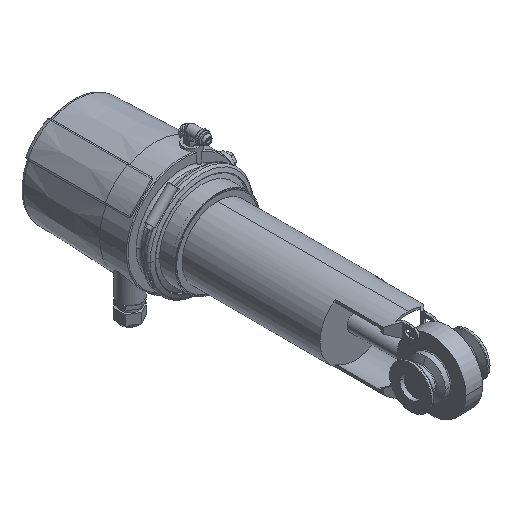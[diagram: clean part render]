
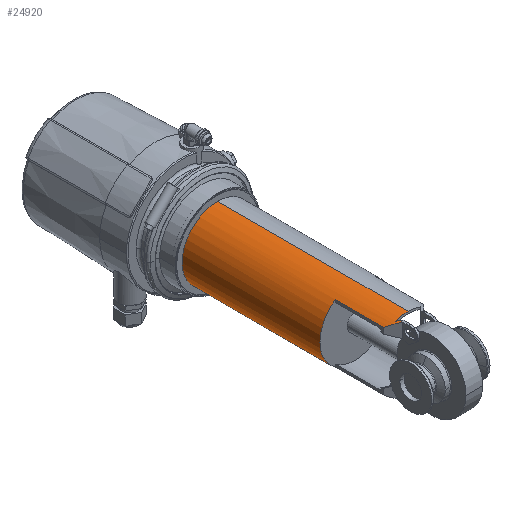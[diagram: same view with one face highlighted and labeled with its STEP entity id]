
A CAD part, isometric view. The second image highlights one B-rep face of the part: STEP entity #24920.
In plain terms, the highlighted cylindrical face has radius 42.5 mm (diameter 85 mm), a partial arc.
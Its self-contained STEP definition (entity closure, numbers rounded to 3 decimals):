
#5790=CARTESIAN_POINT('',(-28.306,-212.914,
-210.096));
#5800=DIRECTION('',(0.,0.,1.));
#5810=DIRECTION('',(-1.,0.,0.));
#5820=AXIS2_PLACEMENT_3D('',#5790,#5800,#5810);
#5830=CIRCLE('',#5820,42.5);
#5840=CARTESIAN_POINT('',(-70.806,-212.914,
-210.096));
#5850=VERTEX_POINT('',#5840);
#5860=CARTESIAN_POINT('',(14.194,-212.914,
-210.096));
#5870=VERTEX_POINT('',#5860);
#5900=EDGE_CURVE('',#5870,#5850,#5830,.T.);
#7850=CARTESIAN_POINT('',(-63.381,-188.914,
-44.596));
#7860=VERTEX_POINT('',#7850);
#7890=CARTESIAN_POINT('',(-28.306,-212.914,
-44.596));
#7900=DIRECTION('',(0.,0.,1.));
#7910=DIRECTION('',(1.,0.,0.));
#7920=AXIS2_PLACEMENT_3D('',#7890,#7900,#7910);
#7930=CIRCLE('',#7920,42.5);
#7940=CARTESIAN_POINT('',(6.769,-188.914,
-44.596));
#7950=VERTEX_POINT('',#7940);
#7960=EDGE_CURVE('',#7950,#7860,#7930,.T.);
#8390=CARTESIAN_POINT('',(12.314,-200.414,
24.897));
#8400=VERTEX_POINT('',#8390);
#8430=CARTESIAN_POINT('',(12.314,-200.414,
-241.458));
#8440=DIRECTION('',(0.,0.,1.));
#8450=VECTOR('',#8440,1.);
#8460=LINE('',#8430,#8450);
#10820=CARTESIAN_POINT('',(12.314,-200.414,
21.362));
#10830=VERTEX_POINT('',#10820);
#10860=CARTESIAN_POINT('',(-28.306,-212.914,
33.862));
#10870=DIRECTION('',(0.,-0.707,-0.707));
#10880=DIRECTION('',(0.,0.707,-0.707));
#10890=AXIS2_PLACEMENT_3D('',#10860,#10870,#10880);
#10900=ELLIPSE('',#10890,60.104,42.5);
#10910=CARTESIAN_POINT('',(11.437,-197.856,
18.804));
#10920=VERTEX_POINT('',#10910);
#10930=EDGE_CURVE('',#10920,#10830,#10900,.T.);
#11400=CARTESIAN_POINT('',(6.769,-188.914,
13.397));
#11410=VERTEX_POINT('',#11400);
#11690=CARTESIAN_POINT('',(6.769,-188.914,
-241.458));
#11700=DIRECTION('',(0.,0.,1.));
#11710=VECTOR('',#11700,1.);
#11720=LINE('',#11690,#11710);
#11730=EDGE_CURVE('',#7950,#11410,#11720,.T.);
#17670=CARTESIAN_POINT('',(-28.306,-212.914,
18.804));
#17680=DIRECTION('',(0.,0.,1.));
#17690=DIRECTION('',(1.,0.,0.));
#17700=AXIS2_PLACEMENT_3D('',#17670,#17680,#17690);
#17710=CIRCLE('',#17700,42.5);
#17720=CARTESIAN_POINT('',(14.194,-212.914,
18.804));
#17730=VERTEX_POINT('',#17720);
#17740=EDGE_CURVE('',#17730,#10920,#17710,.T.);
#18910=EDGE_CURVE('',#10830,#8400,#8460,.T.);
#19030=CARTESIAN_POINT('',(-28.306,-212.914,
37.397));
#19040=DIRECTION('',(0.,0.707,0.707));
#19050=DIRECTION('',(0.,-0.707,0.707));
#19060=AXIS2_PLACEMENT_3D('',#19030,#19040,#19050);
#19070=ELLIPSE('',#19060,60.104,42.5);
#19080=EDGE_CURVE('',#8400,#11410,#19070,.T.);
#23600=CARTESIAN_POINT('',(-63.381,-188.914,
-241.458));
#23610=DIRECTION('',(0.,0.,1.));
#23620=VECTOR('',#23610,1.);
#23630=LINE('',#23600,#23620);
#23640=CARTESIAN_POINT('',(-63.381,-188.914,
13.397));
#23650=VERTEX_POINT('',#23640);
#23660=EDGE_CURVE('',#7860,#23650,#23630,.T.);
#24040=CARTESIAN_POINT('',(-28.306,-212.914,
-44.596));
#24050=DIRECTION('',(0.,0.,1.));
#24060=DIRECTION('',(-1.,0.,0.));
#24070=AXIS2_PLACEMENT_3D('',#24040,#24050,#24060);
#24080=CYLINDRICAL_SURFACE('',#24070,42.5);
#24090=CARTESIAN_POINT('',(14.194,-212.914,
-44.596));
#24100=DIRECTION('',(0.,0.,1.));
#24110=VECTOR('',#24100,1.);
#24120=LINE('',#24090,#24110);
#24130=EDGE_CURVE('',#5870,#17730,#24120,.T.);
#24140=ORIENTED_EDGE('',*,*,#24130,.F.);
#24150=ORIENTED_EDGE('',*,*,#17740,.F.);
#24160=ORIENTED_EDGE('',*,*,#10930,.F.);
#24170=ORIENTED_EDGE('',*,*,#18910,.F.);
#24180=ORIENTED_EDGE('',*,*,#19080,.F.);
#24190=ORIENTED_EDGE('',*,*,#11730,.T.);
#24200=ORIENTED_EDGE('',*,*,#7960,.F.);
#24210=ORIENTED_EDGE('',*,*,#23660,.F.);
#24220=CARTESIAN_POINT('',(-28.306,-212.914,
37.397));
#24230=DIRECTION('',(0.,-0.707,-0.707));
#24240=DIRECTION('',(0.,-0.707,0.707));
#24250=AXIS2_PLACEMENT_3D('',#24220,#24230,#24240);
#24260=ELLIPSE('',#24250,60.104,42.5);
#24270=CARTESIAN_POINT('',(-68.926,-200.414,
24.897));
#24280=VERTEX_POINT('',#24270);
#24290=EDGE_CURVE('',#24280,#23650,#24260,.T.);
#24300=ORIENTED_EDGE('',*,*,#24290,.T.);
#24310=CARTESIAN_POINT('',(-68.926,-200.414,
-241.458));
#24320=DIRECTION('',(0.,0.,1.));
#24330=VECTOR('',#24320,1.);
#24340=LINE('',#24310,#24330);
#24350=CARTESIAN_POINT('',(-68.926,-200.414,
31.352));
#24360=VERTEX_POINT('',#24350);
#24370=EDGE_CURVE('',#24280,#24360,#24340,.T.);
#24380=ORIENTED_EDGE('',*,*,#24370,.F.);
#24390=CARTESIAN_POINT('',(-28.306,-212.914,
387.871));
#24400=DIRECTION('',(-0.994,0.,0.113));
#24410=DIRECTION('',(-0.113,0.,-0.994));
#24420=AXIS2_PLACEMENT_3D('',#24390,#24400,#24410);
#24430=ELLIPSE('',#24420,375.431,42.5);
#24440=CARTESIAN_POINT('',(-69.45,-202.267,
26.749));
#24450=VERTEX_POINT('',#24440);
#24460=EDGE_CURVE('',#24360,#24450,#24430,.T.);
#24470=ORIENTED_EDGE('',*,*,#24460,.F.);
#24480=CARTESIAN_POINT('',(-28.306,-212.914,
37.397));
#24490=DIRECTION('',(0.,0.707,0.707));
#24500=DIRECTION('',(0.,0.707,-0.707));
#24510=AXIS2_PLACEMENT_3D('',#24480,#24490,#24500);
#24520=ELLIPSE('',#24510,60.104,42.5);
#24530=CARTESIAN_POINT('',(-69.613,-202.914,
27.397));
#24540=VERTEX_POINT('',#24530);
#24550=EDGE_CURVE('',#24450,#24540,#24520,.T.);
#24560=ORIENTED_EDGE('',*,*,#24550,.F.);
#24570=CARTESIAN_POINT('',(-69.613,-202.914,
-241.458));
#24580=DIRECTION('',(0.,0.,1.));
#24590=VECTOR('',#24580,1.);
#24600=LINE('',#24570,#24590);
#24610=CARTESIAN_POINT('',(-69.613,-202.914,
23.862));
#24620=VERTEX_POINT('',#24610);
#24630=EDGE_CURVE('',#24620,#24540,#24600,.T.);
#24640=ORIENTED_EDGE('',*,*,#24630,.T.);
#24650=CARTESIAN_POINT('',(-28.306,-212.914,
33.862));
#24660=DIRECTION('',(0.,-0.707,-0.707));
#24670=DIRECTION('',(0.,-0.707,0.707));
#24680=AXIS2_PLACEMENT_3D('',#24650,#24660,#24670);
#24690=ELLIPSE('',#24680,60.104,42.5);
#24700=CARTESIAN_POINT('',(-68.049,-197.856,
18.804));
#24710=VERTEX_POINT('',#24700);
#24720=EDGE_CURVE('',#24620,#24710,#24690,.T.);
#24730=ORIENTED_EDGE('',*,*,#24720,.F.);
#24740=CARTESIAN_POINT('',(-28.306,-212.914,
18.804));
#24750=DIRECTION('',(0.,0.,1.));
#24760=DIRECTION('',(-1.,0.,0.));
#24770=AXIS2_PLACEMENT_3D('',#24740,#24750,#24760);
#24780=CIRCLE('',#24770,42.5);
#24790=CARTESIAN_POINT('',(-70.806,-212.914,
18.804));
#24800=VERTEX_POINT('',#24790);
#24810=EDGE_CURVE('',#24710,#24800,#24780,.T.);
#24820=ORIENTED_EDGE('',*,*,#24810,.F.);
#24830=CARTESIAN_POINT('',(-70.806,-212.914,
-44.596));
#24840=DIRECTION('',(0.,0.,1.));
#24850=VECTOR('',#24840,1.);
#24860=LINE('',#24830,#24850);
#24870=EDGE_CURVE('',#5850,#24800,#24860,.T.);
#24880=ORIENTED_EDGE('',*,*,#24870,.T.);
#24890=ORIENTED_EDGE('',*,*,#5900,.T.);
#24900=EDGE_LOOP('',(#24890,#24880,#24820,#24730,#24640,#24560,#24470,
#24380,#24300,#24210,#24200,#24190,#24180,#24170,#24160,#24150,#24140));
#24910=FACE_OUTER_BOUND('',#24900,.T.);
#24920=ADVANCED_FACE('',(#24910),#24080,.T.);
